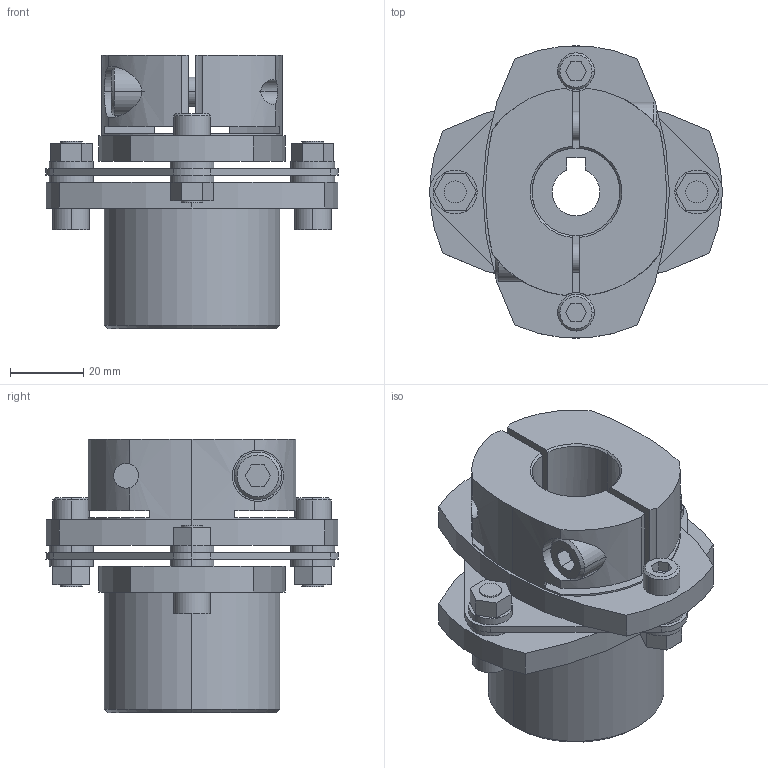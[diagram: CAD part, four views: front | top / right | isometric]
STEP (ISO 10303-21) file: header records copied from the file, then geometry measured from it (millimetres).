
FILE_DESCRIPTION((''),'2;1');
FILE_NAME('LCS-80M-16L亊24B.stp','2011-08-20T16:14:03',(''),(''),'AutoCAD STEP 2000i','AutoCAD 2000i',', , ');
FILE_SCHEMA(('CONFIG_CONTROL_DESIGN'));
Length unit declared in the file: millimetre
Products named in the file (7): LCS-80M-16L×20B; 忣兜1; LC80-B020; LC80M-L016; LC80-B015-1; LC80-B015; LCS80-ITA
Assembly tree (6 placements, depth 2):
  LCS-80M-16L×20B
    忣兜1
    LC80-B020
    LC80M-L016
    LC80-B015-1
    LC80-B015
    LCS80-ITA
Bounding box: 80 x 79.95 x 74.75 mm (x, y, z)
Volume: 140509 mm3; surface area: 41468.6 mm2
Topology: 1 solids, 1 shells, 230 faces, 580 edges, 382 vertices
Faces by surface type: plane 115, cylinder 96, cone 19
Entity records: 7435 total; most frequent: CARTESIAN_POINT 1523, DIRECTION 1254, ORIENTED_EDGE 1160, EDGE_CURVE 580, AXIS2_PLACEMENT_3D 459, VERTEX_POINT 382, VECTOR 336, LINE 336
